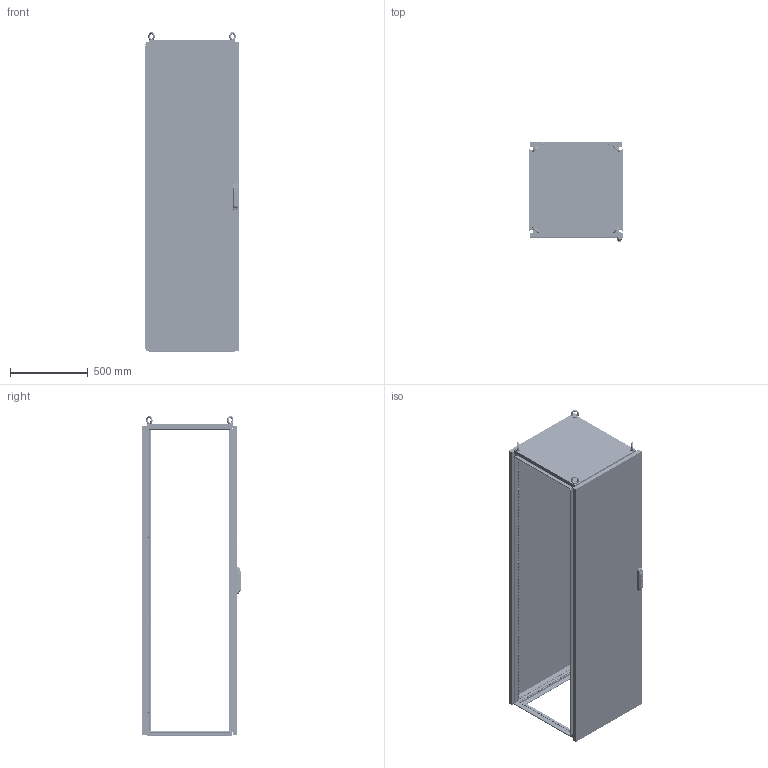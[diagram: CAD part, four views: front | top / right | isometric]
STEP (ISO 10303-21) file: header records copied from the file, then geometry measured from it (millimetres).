
FILE_DESCRIPTION(/* description */ ('Unknown'),/* implementation_level */ '2;1');
FILE_NAME(/* name */ 'MCA06020060',/* time_stamp */ '2025-03-07T08:10:16+01:00',/* author */ ('Unknown'),/* organization */ ('Unknown'),/* preprocessor_version */ 'ST-DEVELOPER v19.4',/* originating_system */ 'Solid Edge',/* authorisation */ 'Unknown');
FILE_SCHEMA (('CONFIG_CONTROL_DESIGN'));
Products named in the file (46): MCA06020060; F0000001.24; AE00198.03; M000X000.65; M0000000.14; AE00500.10; M000X000.66; M0000000.54; M0000000.39; M0000000.06; AE00219.03; AE00715.01; M000X000.67; M0000000.70; F000X001.98; F000X001.99; F0000001.44; F0000000.07; AE00100.03_oa_0; AE00100.03_oa_1; AE00100.03_oa_2; AE00100.03_oa_3; M0000000.37; AE00701.03; F0000000.13; F000X002.00; F000X002.01; F000X002.02; F0000001.45; F000X000.49; F0000002.22; F0000002.15; AE01400.01; AE00413.05; AE00417.01; F0000000.12; AE00222.15; AE00316.01; AE00992.10_oa_4; AE00992.31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
Assembly tree (190 placements, depth 5):
  MCA06020060
    F0000001.24  x4
    AE00198.03  x16
    M000X000.65
      M0000000.14  x4
      AE00500.10  x48
      M000X000.66  x2
        M0000000.54
        M0000000.39
        M0000000.06
    AE00219.03  x8
    AE00715.01  x4
    M000X000.67
      M0000000.70
    F000X001.98
      F000X001.99
        F0000001.44
      F0000000.07  x2
      AE00100.03_oa_0
      AE00100.03_oa_1
      AE00100.03_oa_2
      AE00100.03_oa_3
    M0000000.37  x8
    AE00701.03  x4
    F0000000.13  x4
    F000X002.00
      F000X002.01
        F000X002.02
          F0000001.45
        F000X000.49
          F0000002.22  x2
          F0000002.15  x2
          AE01400.01  x4
        AE00413.05  x4
        AE00417.01  x2
      F0000000.12  x8
      AE00222.15  x8
      AE00316.01  x8
      AE00992.10_oa_4
      AE00992.31
      AE00315.01  x4
      AE00992.17   x2
      AE00992.18  x4
      AE00992.16
      AE00636.02  x8
    F0000000.08  x4
Bounding box: 600 x 638.2 x 2056.97 mm (x, y, z)
Volume: 14208762.3 mm3; surface area: 12308577.9 mm2
Topology: 199 solids, 199 shells, 10100 faces, 28828 edges, 19275 vertices
Faces by surface type: plane 7233, cylinder 2261, cone 534, torus 42, sphere 16, bspline 14
Full cylindrical faces by diameter (mm): 2 x4, 3 x1, 3.242 x2, 4 x12, 4.134 x5, 4.25 x182, 4.5 x928, 4.917 x65, 4.918 x8, 5 x6, 6 x58, 6.1 x20, 6.2 x8, 6.5 x20, 7.5 x2, 8.3 x8, 8.5 x2, 9 x48, 10.106 x8, 10.5 x16, 11.8 x8, 12 x16, 13 x4, 14 x1, 16 x1, 17 x1, 23 x2, 30 x4
Entity records: 78782 total; most frequent: CARTESIAN_POINT 13793, ORIENTED_EDGE 12196, DIRECTION 12146, EDGE_CURVE 6098, LINE 4800, VECTOR 4800, VERTEX_POINT 4324, FACE_BOUND 3976
